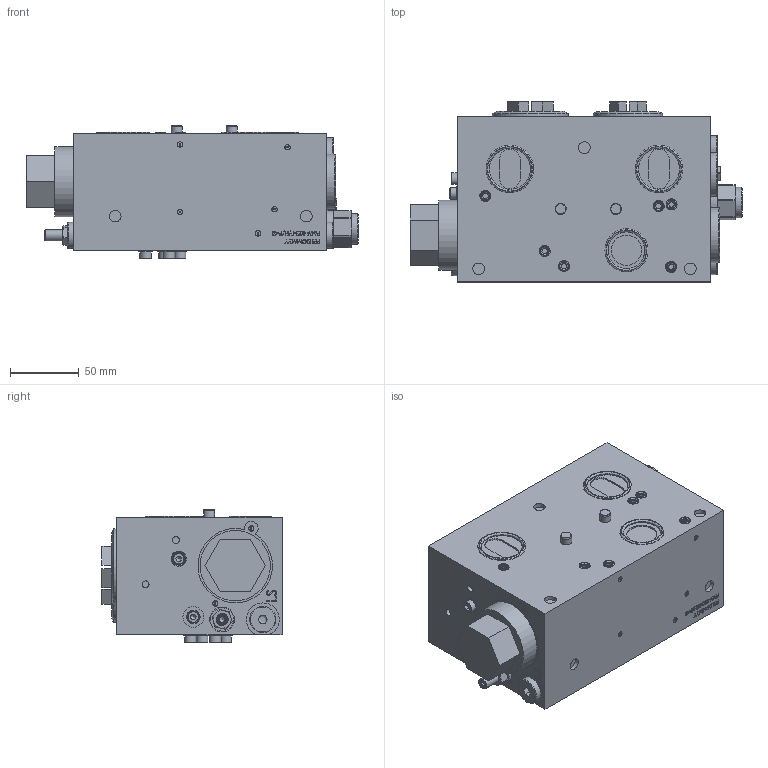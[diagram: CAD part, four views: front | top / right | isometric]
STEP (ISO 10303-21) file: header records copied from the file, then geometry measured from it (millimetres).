
FILE_DESCRIPTION (( 'STEP AP214' ), '1' );
FILE_NAME ('0304499.STEP', '2022-08-01T13:32:36', ( '' ), ( '' ), 'SwSTEP 2.0', 'SolidWorks 2020', '' );
FILE_SCHEMA (( 'AUTOMOTIVE_DESIGN' ));
Length unit declared in the file: millimetre
Products named in the file (23): 0293549_002; 0287187_001; 0072022_238.2406; 0072022_238.3402; 0073837_049.2050; 0290158_001; 0166400_001; 0290158_013; 0072126_221.5560; 0283782_001; 0289301_002; 0290158_015; 0295364_001; 0292893_002; 0072022_238.8400; 0074669_079.2105; 0074697_246.2308; 0073842_153.2402; 0072022_238.7401; 0079915_005; 0304499; 0288965_003; 0295366_001
Assembly tree (53 placements, depth 3):
  0304499
    0292893_002
    0283782_001  x13
    0289301_002
      0288965_003
      0072022_238.3402
    0072022_238.8400
    0072022_238.7401
    0072022_238.2406  x3
    0166400_001
    0079915_005
    0293549_002
    0074669_079.2105
    0287187_001
    0073842_153.2402
    0073837_049.2050  x6
    0074697_246.2308  x6
    0290158_001  x6
    0290158_013  x2
    0290158_015
    0295366_001
    0295364_001
    0072126_221.5560  x2
Bounding box: 240.8 x 130.7 x 97 mm (x, y, z)
Volume: 2023952.2 mm3; surface area: 171836.9 mm2
Topology: 77 solids, 77 shells, 1757 faces, 3754 edges, 2374 vertices
Faces by surface type: plane 932, cone 344, cylinder 302, bspline 158, torus 21
Full cylindrical faces by diameter (mm): 0.6 x14, 1.1 x13, 2.4 x1, 2.55 x1, 3.5 x13, 3.7 x1, 3.767 x13, 4 x20, 4.1 x1, 4.2 x5, 4.47 x6, 5 x14, 5.7 x6, 6 x1, 6.8 x1, 7 x1, 7.8 x6, 7.85 x12, 8 x5, 8.03 x6, 8.5 x16, 10 x6, 10.95 x1, 11.3 x3, 11.445 x4, 11.6 x3, 13.16 x1, 13.2 x3, 14.5 x1, 14.6 x1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
Entity records: 39562 total; most frequent: CARTESIAN_POINT 13220, DIRECTION 4680, ORIENTED_EDGE 4634, EDGE_CURVE 2317, VERTEX_POINT 1659, AXIS2_PLACEMENT_3D 1590, EDGE_LOOP 1574, LINE 1500
